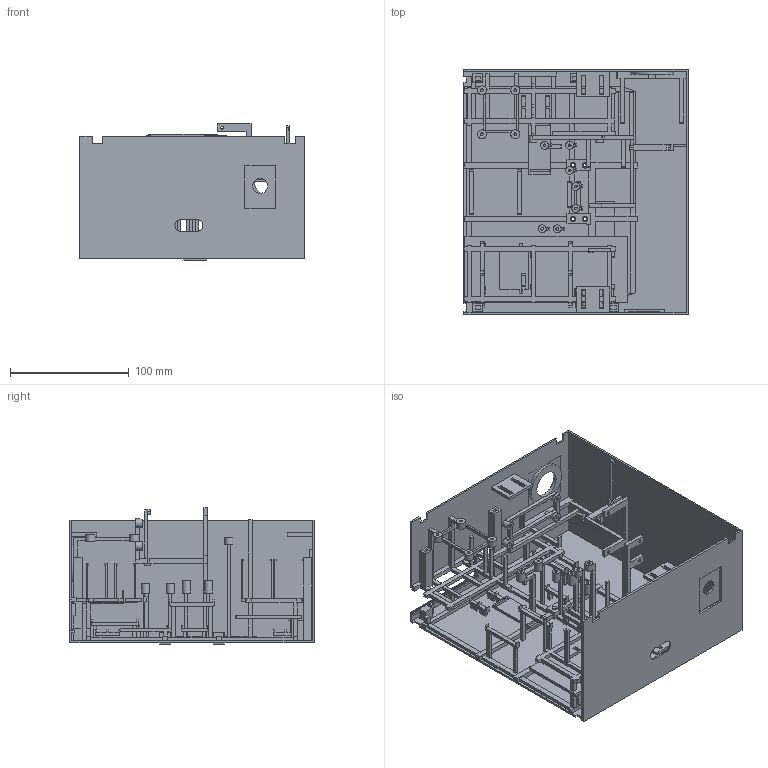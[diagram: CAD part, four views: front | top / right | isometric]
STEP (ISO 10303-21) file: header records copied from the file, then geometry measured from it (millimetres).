
FILE_DESCRIPTION(('Open CASCADE Model'),'2;1');
FILE_NAME('Open CASCADE Shape Model','2026-11-19T21:14:09',('Author'),( 'Open CASCADE'),'Open CASCADE STEP processor 8.0','Open CASCADE 8.0' ,'Unknown');
FILE_SCHEMA(('AUTOMOTIVE_DESIGN { 1 0 10303 214 1 1 1 1 }'));
Products named in the file (1): Open CASCADE STEP translator 8.0 1
Bounding box: 188.85 x 206 x 114.78 mm (x, y, z)
Volume: 249254.9 mm3; surface area: 277034.4 mm2
Topology: 1 solids, 1 shells, 1524 faces, 4502 edges, 3001 vertices
Faces by surface type: plane 1441, cylinder 47, cone 33, bspline 3
Full cylindrical faces by diameter (mm): 2.24 x4, 2.3 x8, 2.36 x7, 2.8 x4, 6.6 x7, 6.9 x4, 7.6 x4, 12.5 x1, 22.8 x1, 23 x1, 36 x1
Entity records: 106090 total; most frequent: CARTESIAN_POINT 22455, DIRECTION 13210, LINE 9451, VECTOR 9451, ORIENTED_EDGE 9004, PCURVE 9004, DEFINITIONAL_REPRESENTATION 9004, EDGE_CURVE 4502
